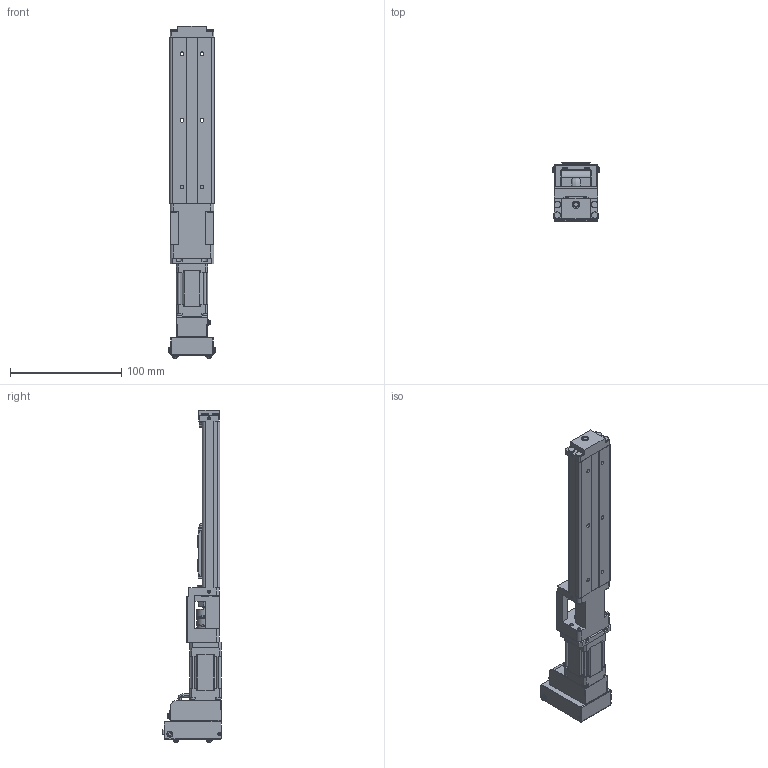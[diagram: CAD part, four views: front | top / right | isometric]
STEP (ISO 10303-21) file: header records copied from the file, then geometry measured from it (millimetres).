
FILE_DESCRIPTION (( 'STEP AP214' ), '1' );
FILE_NAME ('SPA20-A-01-080-S-00A0-11L30.STEP', '2015-01-06T17:51:40', ( '' ), ( '' ), 'SwSTEP 2.0', 'SolidWorks 2015', '' );
FILE_SCHEMA (( 'AUTOMOTIVE_DESIGN' ));
Length unit declared in the file: millimetre
Products named in the file (5): SPA20-A-01-080-S-00A0; RCLA16C-5-5; PA20-CM1-11-BRK; CM1-X-11L30_CM1-X-11L30; SPA20-A-01-080-S-00A0-11L30
Assembly tree (4 placements, depth 2):
  SPA20-A-01-080-S-00A0-11L30
    CM1-X-11L30_CM1-X-11L30
    PA20-CM1-11-BRK
    RCLA16C-5-5
    SPA20-A-01-080-S-00A0
Bounding box: 43.2 x 52.3 x 298.9 mm (x, y, z)
Volume: 172977.3 mm3; surface area: 85171.5 mm2
Topology: 33 solids, 35 shells, 1795 faces, 4749 edges, 3078 vertices
Faces by surface type: plane 1098, cylinder 572, cone 75, torus 30, bspline 18, sphere 2
Entity records: 67725 total; most frequent: CARTESIAN_POINT 11257, DIRECTION 9437, ORIENTED_EDGE 9368, EDGE_CURVE 4723, VECTOR 3289, LINE 3289, VERTEX_POINT 3078, AXIS2_PLACEMENT_3D 3074
